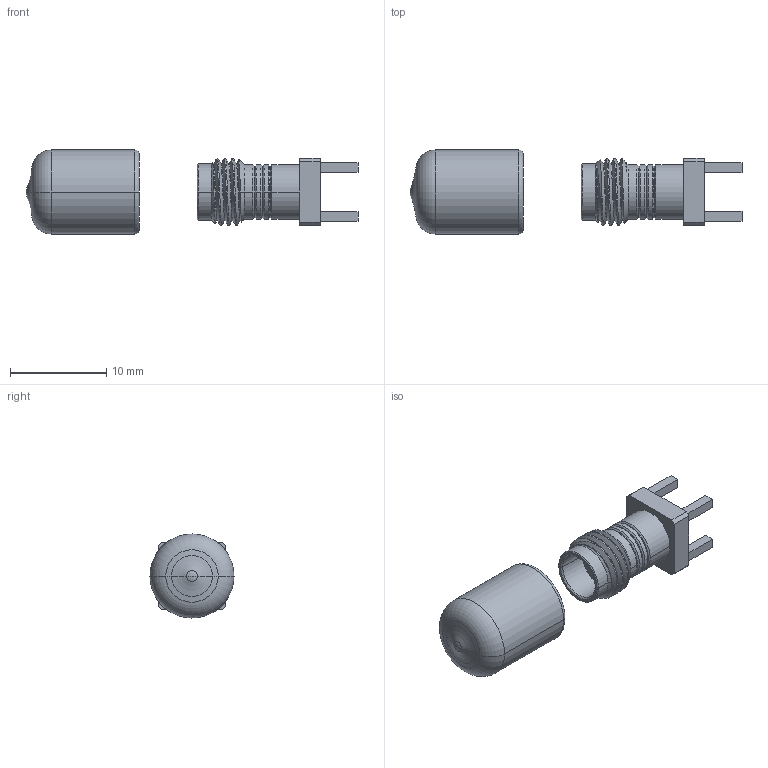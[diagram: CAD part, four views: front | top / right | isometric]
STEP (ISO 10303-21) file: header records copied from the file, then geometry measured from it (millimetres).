
FILE_DESCRIPTION (( 'STEP AP203' ), '1' );
FILE_NAME ('59-20009-12040B.STEP', '2018-09-28T02:49:25', ( '' ), ( '' ), 'SwSTEP 2.0', 'SolidWorks 2015', '' );
FILE_SCHEMA (( 'CONFIG_CONTROL_DESIGN' ));
Length unit declared in the file: millimetre
Products named in the file (8): 102-1206-700000B; 108-0059-900000B; 59-20009-12040B; 101-2210-123040A; 101-2193-123040B; 103-1508-226050B; 103-1497-226080C; 102-1130-700000B
Assembly tree (7 placements, depth 2):
  59-20009-12040B
    101-2210-123040A
    101-2193-123040B
    103-1508-226050B
    103-1497-226080C
    102-1130-700000B
    102-1206-700000B
    108-0059-900000B
Bounding box: 34.55 x 8.75 x 8.75 mm (x, y, z)
Volume: 634.5 mm3; surface area: 1396.4 mm2
Topology: 7 solids, 7 shells, 274 faces, 648 edges, 399 vertices
Faces by surface type: cylinder 84, plane 74, cone 73, torus 34, sphere 7, bspline 2
Entity records: 10721 total; most frequent: CARTESIAN_POINT 3653, DIRECTION 1353, ORIENTED_EDGE 1284, EDGE_CURVE 642, AXIS2_PLACEMENT_3D 573, VERTEX_POINT 399, EDGE_LOOP 297, CIRCLE 291
